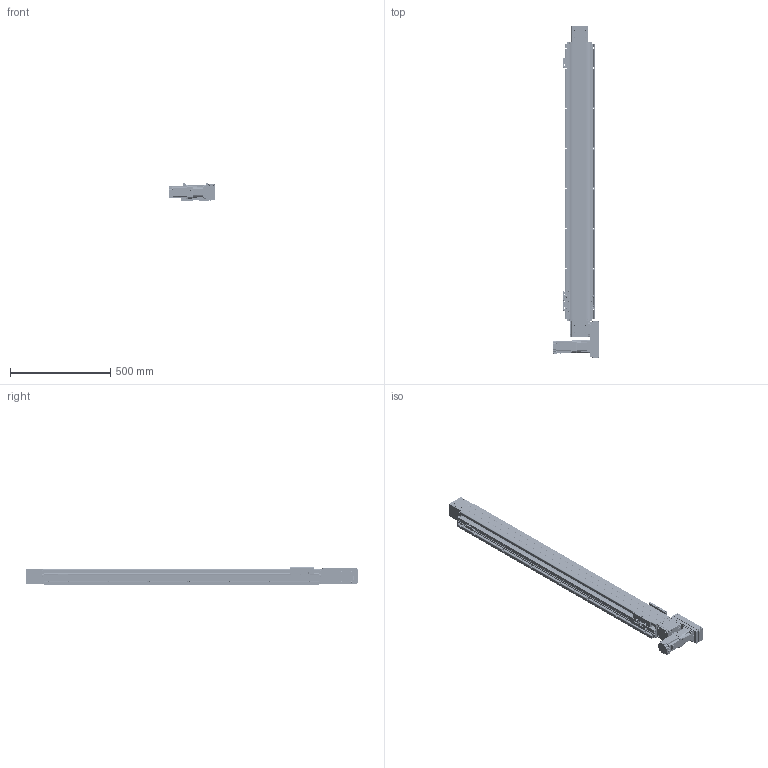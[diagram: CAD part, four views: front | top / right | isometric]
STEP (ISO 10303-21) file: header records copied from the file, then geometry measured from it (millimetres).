
FILE_DESCRIPTION(/* description */ (''),/* implementation_level */ '2;1');
FILE_NAME(/* name */ '\\192.168.0.160\disk1\HAN SHIN Master\B-설계부문\C-표준\B-2024년\BC02-표준도면\+로봇 개선표준도면\홈페이지 표준 도면\홈페이지 최종 작업 폴더\3D\HSB\HSB125\HSB125-R4G-N-1200-L.stp',/* time_stamp */ '2025-01-11T09:20:41+09:00',/* author */ ('user'),/* organization */ (''),/* preprocessor_version */ 'ST-DEVELOPER v18.1',/* originating_system */ 'Autodesk Inventor 2022',/* authorisation */ '');
FILE_SCHEMA (('AUTOMOTIVE_DESIGN { 1 0 10303 214 3 1 1 }'));
Products named in the file (32): HSB125-R4G-N-0500-L; BASE; REAR COVER; HSB125 FORNT HOUSUNG (Connecting); HSB160 REAR SHAFT-2; REAR SHAFT--2; HSB125 REAR HOUSUNG; TENSION PLATE; HSB160 ARC COVER; UPCOVER; hsr_ftht_A-M6F_grease_nipple_joint; NIPPLE CAP(신규); 6003ZZ; HSB125 TABLE (TEST); HG90STOPPER - 17L; SIDE COVER; PGX62-H-1_3; hg-kr43_; HSB125 END COVER; HSB160 SHAFT-1; NSK_6205; HSB160 BEARING OVER; HR120 SENSOR DOG; SENSOR BRK(EE-SX674A); EE_SX674A; HSB125 R; HR120 LR BELT COVER; HR160 ACRYL COVER - 1; HR160 ACRYL COVER - 1_1; HR160 ACRYL COVER - 1_2; HR120 LR MOTOR PLATE (400W)-사출; MOTOR PLATE - 200W
Assembly tree (53 placements, depth 3):
  HSB125-R4G-N-0500-L
    BASE
    REAR COVER  x2
    HSB125 FORNT HOUSUNG (Connecting)
    HSB160 REAR SHAFT-2
    REAR SHAFT--2
    HSB125 REAR HOUSUNG
    TENSION PLATE  x2
    HSB160 ARC COVER  x4
    HG90STOPPER - 17L  x4
    UPCOVER
    NIPPLE CAP(신규)  x4
    hsr_ftht_A-M6F_grease_nipple_joint  x4
    6003ZZ  x2
    HSB125 TABLE (TEST)
    SIDE COVER  x2
    PGX62-H-1_3
    hg-kr43_
    HSB125 END COVER
    HSB160 SHAFT-1
    NSK_6205  x2
    HSB160 BEARING OVER
    SENSOR BRK(EE-SX674A)  x3
    EE_SX674A  x3
    HR120 SENSOR DOG
    HSB125 R
      HR120 LR BELT COVER
      HR160 ACRYL COVER - 1
      HR160 ACRYL COVER - 1_1
      HR160 ACRYL COVER - 1_2  x2
      HR120 LR MOTOR PLATE (400W)-사출
      MOTOR PLATE - 200W
Bounding box: 233.3 x 1654.5 x 85 mm (x, y, z)
Volume: 5773362.4 mm3; surface area: 2000028.4 mm2
Topology: 117 solids, 117 shells, 6733 faces, 18677 edges, 12298 vertices
Faces by surface type: plane 4875, cylinder 1345, cone 353, sphere 72, torus 61, bspline 27
Full cylindrical faces by diameter (mm): 2.459 x74, 3 x20, 3.242 x60, 3.3 x5, 3.4 x40, 3.5 x6, 4 x9, 4.134 x38, 4.2 x10, 4.5 x37, 4.917 x24, 5 x20, 5.5 x55, 5.6 x4, 5.8 x4, 5.9 x8, 6 x12, 6.5 x8, 6.647 x16, 7 x1, 7.5 x24, 8 x4, 8.5 x4, 9 x4, 9.2 x4, 9.5 x27, 12 x2, 14 x1, 14.2 x1, 15 x4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
Entity records: 152538 total; most frequent: CARTESIAN_POINT 30178, ORIENTED_EDGE 25258, DIRECTION 24393, EDGE_CURVE 12629, LINE 9439, VECTOR 9439, VERTEX_POINT 8399, AXIS2_PLACEMENT_3D 7477
